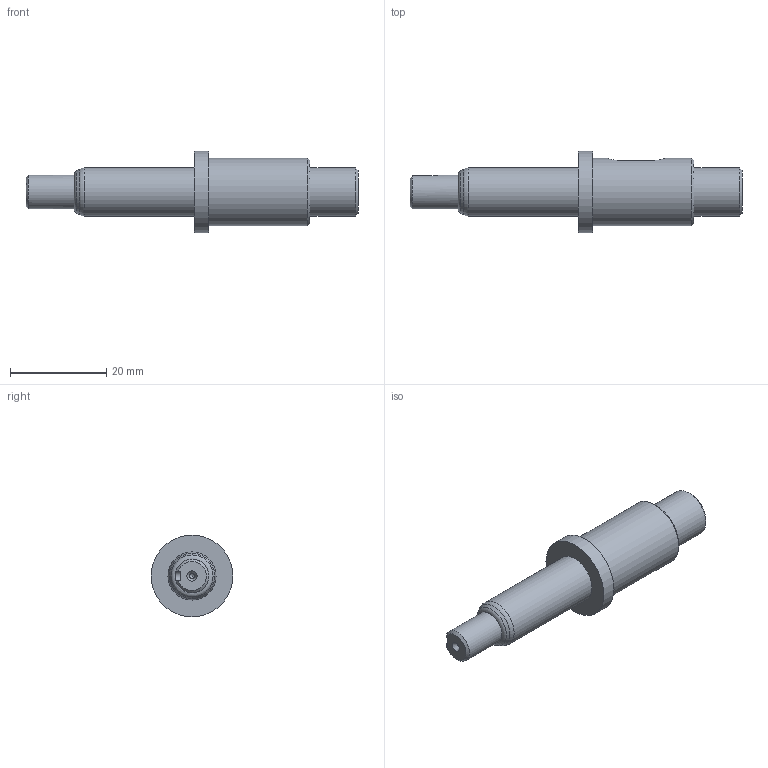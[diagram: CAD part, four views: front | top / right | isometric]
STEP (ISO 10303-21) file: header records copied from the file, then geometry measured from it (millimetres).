
FILE_DESCRIPTION(/* description */ (''),/* implementation_level */ '2;1');
FILE_NAME(/* name */ '',/* time_stamp */ '2025-01-06T15:34:42+09:00',/* author */ ('jhkim'),/* organization */ (''),/* preprocessor_version */ 'ST-DEVELOPER v20',/* originating_system */ 'Autodesk Inventor 2025',/* authorisation */ '');
FILE_SCHEMA (('AUTOMOTIVE_DESIGN { 1 0 10303 214 3 1 1 }'));
Length unit declared in the file: millimetre
Products named in the file (1): 하단 축
Bounding box: 69 x 17 x 17 mm (x, y, z)
Volume: 6814.1 mm3; surface area: 2927.1 mm2
Topology: 1 solids, 1 shells, 31 faces, 72 edges, 47 vertices
Faces by surface type: plane 11, cylinder 10, cone 8, torus 2
Full cylindrical faces by diameter (mm): 1 x1, 2 x1, 7 x1, 10 x2, 14 x1, 17 x1
Entity records: 966 total; most frequent: CARTESIAN_POINT 207, DIRECTION 157, ORIENTED_EDGE 140, EDGE_CURVE 70, AXIS2_PLACEMENT_3D 63, VERTEX_POINT 47, EDGE_LOOP 37, FACE_OUTER_BOUND 31
